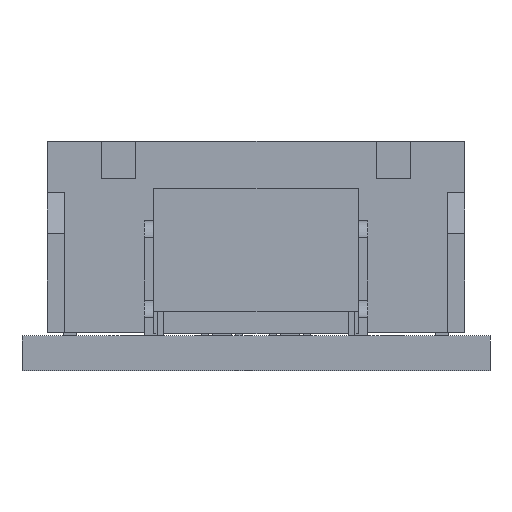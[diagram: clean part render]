
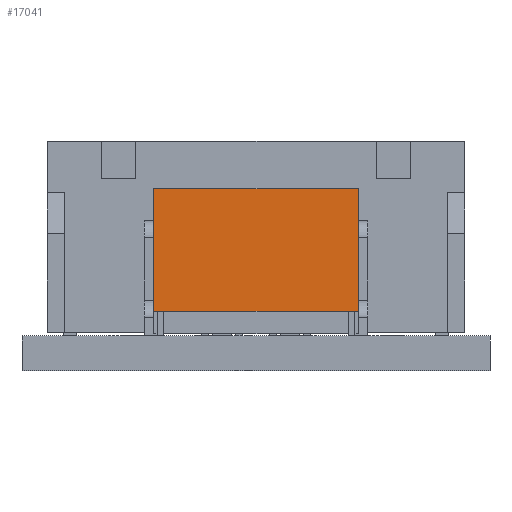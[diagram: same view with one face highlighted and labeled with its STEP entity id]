
A CAD part, front view. The second image highlights one B-rep face of the part: STEP entity #17041.
In plain terms, the highlighted planar face has unit normal (0, -1, 0).
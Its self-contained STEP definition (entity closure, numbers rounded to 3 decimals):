
#237 = DIRECTION ( 'NONE',  ( 0., 1., 0. ) ) ;
#1483 = EDGE_CURVE ( 'NONE', #6051, #19102, #19303, .T. ) ;
#1997 = CARTESIAN_POINT ( 'NONE',  ( 3.858, 4.316, 1.736 ) ) ;
#2113 = VECTOR ( 'NONE', #12923, 1000. ) ;
#2145 = EDGE_CURVE ( 'NONE', #27433, #19243, #19971, .T. ) ;
#3496 = AXIS2_PLACEMENT_3D ( 'NONE', #8264, #237, #21808 ) ;
#4237 = CARTESIAN_POINT ( 'NONE',  ( 3.858, 4.316, 5.336 ) ) ;
#4492 = EDGE_LOOP ( 'NONE', ( #5688, #12485, #14049, #8019 ) ) ;
#5022 = LINE ( 'NONE', #26465, #2113 ) ;
#5688 = ORIENTED_EDGE ( 'NONE', *, *, #1483, .T. ) ;
#6051 = VERTEX_POINT ( 'NONE', #29531 ) ;
#6935 = CARTESIAN_POINT ( 'NONE',  ( 9.858, 4.316, 5.336 ) ) ;
#8019 = ORIENTED_EDGE ( 'NONE', *, *, #25305, .F. ) ;
#8264 = CARTESIAN_POINT ( 'NONE',  ( 3.858, 4.316, 5.336 ) ) ;
#8557 = DIRECTION ( 'NONE',  ( 0., 0., -1. ) ) ;
#9687 = FACE_OUTER_BOUND ( 'NONE', #4492, .T. ) ;
#9882 = DIRECTION ( 'NONE',  ( 0., 0., -1. ) ) ;
#11576 = CARTESIAN_POINT ( 'NONE',  ( 9.858, 4.316, 1.736 ) ) ;
#12322 = DIRECTION ( 'NONE',  ( 1., 0., 0. ) ) ;
#12485 = ORIENTED_EDGE ( 'NONE', *, *, #28098, .T. ) ;
#12923 = DIRECTION ( 'NONE',  ( 1., 0., 0. ) ) ;
#14049 = ORIENTED_EDGE ( 'NONE', *, *, #2145, .F. ) ;
#14453 = VECTOR ( 'NONE', #12322, 1000. ) ;
#16379 = CARTESIAN_POINT ( 'NONE',  ( 3.858, 4.316, 5.336 ) ) ;
#16814 = VECTOR ( 'NONE', #9882, 1000. ) ;
#17041 = ADVANCED_FACE ( 'NONE', ( #9687 ), #23087, .F. ) ;
#19102 = VERTEX_POINT ( 'NONE', #1997 ) ;
#19243 = VERTEX_POINT ( 'NONE', #11576 ) ;
#19303 = LINE ( 'NONE', #16379, #30189 ) ;
#19971 = LINE ( 'NONE', #6935, #16814 ) ;
#21808 = DIRECTION ( 'NONE',  ( -1., 0., 0. ) ) ;
#23087 = PLANE ( 'NONE',  #3496 ) ;
#25144 = LINE ( 'NONE', #4237, #14453 ) ;
#25305 = EDGE_CURVE ( 'NONE', #6051, #27433, #25144, .T. ) ;
#26465 = CARTESIAN_POINT ( 'NONE',  ( 3.858, 4.316, 1.736 ) ) ;
#27433 = VERTEX_POINT ( 'NONE', #32569 ) ;
#28098 = EDGE_CURVE ( 'NONE', #19102, #19243, #5022, .T. ) ;
#29531 = CARTESIAN_POINT ( 'NONE',  ( 3.858, 4.316, 5.336 ) ) ;
#30189 = VECTOR ( 'NONE', #8557, 1000. ) ;
#32569 = CARTESIAN_POINT ( 'NONE',  ( 9.858, 4.316, 5.336 ) ) ;
